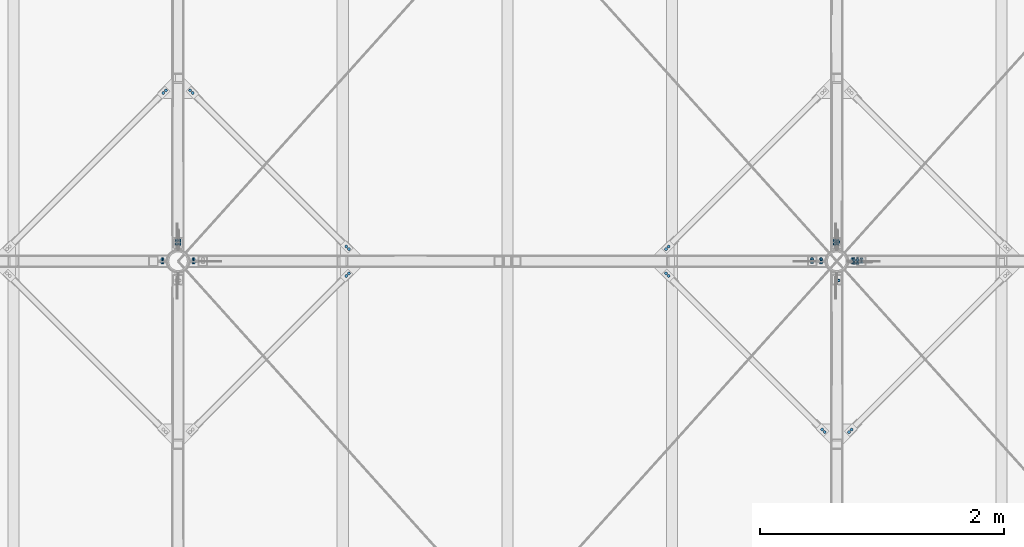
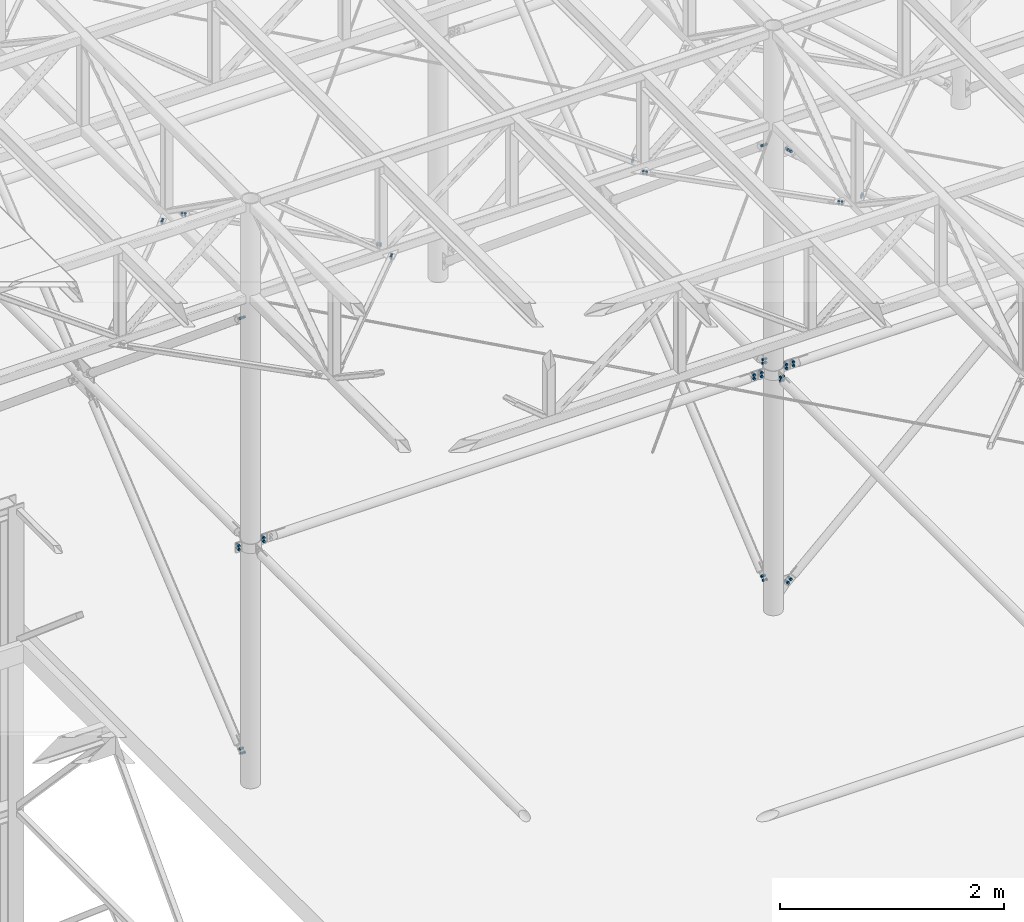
# One storey, part 116 of 132: 24 mechanical fasteners, 20 elements without a shape of their own.
"""IFC2X3 building model written with IfcOpenShell, lengths in millimetres."""

from ifc_helpers import new_model, si_unit, frame, origin_with_axes, origin_2d_with_axis, place, context, subcontext, project, spatial, polyline, circle, outline, extrude, source, transform, mapped, material, type_object, element, aggregate, save


model = new_model("IFC2X3")

# Units and contexts
model_context = context("Model", 3, precision=1e-05, world=origin_with_axes())
body_context = subcontext(model_context, "Body", "Model", "MODEL_VIEW")
ifc_project = project(units=[si_unit("LENGTHUNIT", "METRE", prefix="MILLI"), si_unit("AREAUNIT", "SQUARE_METRE"), si_unit("VOLUMEUNIT", "CUBIC_METRE"), si_unit("MASSUNIT", "GRAM", prefix="KILO"), si_unit("TIMEUNIT", "SECOND"), si_unit("PLANEANGLEUNIT", "RADIAN"), si_unit("SOLIDANGLEUNIT", "STERADIAN"), si_unit("THERMODYNAMICTEMPERATUREUNIT", "DEGREE_CELSIUS"), si_unit("LUMINOUSINTENSITYUNIT", "LUMEN")], contexts=[model_context])

# Site, building, storey
site_placement = place(None, origin_with_axes())
site = spatial("IfcSite", under=ifc_project, at=site_placement, Name="Budowa", CompositionType="ELEMENT")
building_placement = place(site_placement, origin_with_axes())
building = spatial("IfcBuilding", under=site, at=building_placement, Name="Undefined", CompositionType="ELEMENT")
storey_placement = place(building_placement, origin_with_axes())
storey = spatial("IfcBuildingStorey", under=building, at=storey_placement, Name="Undefined", CompositionType="ELEMENT", Elevation=0.0)

# Assembly, mechanical fastener
assembly_1_placement = place(storey_placement, origin_with_axes())
assembly_1 = element("IfcElementAssembly", 1, at=assembly_1_placement, inside=storey, Name="Steel Assembly", AssemblyPlace="NOTDEFINED", PredefinedType="RIGID_FRAME")
ifc_material = material(Name="Undefined")
discrete_accessory_type = type_object("IfcDiscreteAccessoryType", Name="Bolt assembly")
shared_shape_1 = source(origin_with_axes(), body_context, "Body", "SweptSolid", [
    extrude(circle(Radius=9.5, at=origin_2d_with_axis()), frame((0.0, -2.10099750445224, 0.0), z_axis=(0.0, 1.0, 0.0), x_axis=(1.0, 0.0, 0.0)), (0.0, 0.0, 1.0), 8.1),
    extrude(circle(Radius=9.5, at=origin_2d_with_axis()), frame((0.0, -9.9, 0.0), z_axis=(0.0, 1.0, 0.0), x_axis=(1.0, 0.0, 0.0)), (0.0, 0.0, 1.0), 8.0),
    extrude(outline(polyline([(13.85640646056, 0.0), (6.92820323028, 12.0000000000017), (-6.92820323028, 12.0000000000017), (-13.85640646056, 0.0), (-6.92820323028, -12.0000000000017), (6.92820323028, -12.0000000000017), (13.85640646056, 0.0)])), frame((0.0, -23.0, 0.0), z_axis=(0.0, 1.0, 0.0), x_axis=(1.0, 0.0, 0.0)), (0.0, 0.0, 1.0), 10.0),
    extrude(circle(Radius=8.0, at=origin_2d_with_axis()), frame((0.0, -13.0, 0.0), z_axis=(0.0, 1.0, 0.0), x_axis=(1.0, 0.0, 0.0)), (0.0, 0.0, 1.0), 45.0),
    extrude(circle(Radius=15.0, at=origin_2d_with_axis()), frame((0.0, -13.0, 0.0), z_axis=(0.0, 1.0, 0.0), x_axis=(1.0, 0.0, 0.0)), (0.0, 0.0, 1.0), 3.0),
    extrude(circle(Radius=15.0, at=origin_2d_with_axis()), frame((0.0, 5.99900249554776, 0.0), z_axis=(0.0, 1.0, 0.0), x_axis=(1.0, 0.0, 0.0)), (0.0, 0.0, 1.0), 3.0),
    extrude(outline(polyline([(13.85640646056, 0.0), (6.92820323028, 12.0000000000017), (-6.92820323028, 12.0000000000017), (-13.85640646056, 0.0), (-6.92820323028, -12.0000000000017), (6.92820323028, -12.0000000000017), (13.85640646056, 0.0)])), frame((0.0, 8.99900249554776, 0.0), z_axis=(0.0, 1.0, 0.0), x_axis=(1.0, 0.0, 0.0)), (0.0, 0.0, 1.0), 13.0),
])
mechanical_fastener_1_placement = place(assembly_1_placement, frame((9565.67385240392, 11997.9999976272, 7751.79053481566), z_axis=(-0.678551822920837, 0.0, 0.734552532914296), x_axis=(0.734552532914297, 0.0, 0.678551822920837)))
mechanical_fastener_1 = element("IfcMechanicalFastener", 2, at=mechanical_fastener_1_placement, type_object=discrete_accessory_type, material=ifc_material, Name="Bolt assembly", NominalDiameter=16.0, NominalLength=45.0, context=body_context, shape_type="MappedRepresentation", body=[
    mapped(shared_shape_1, transform((0.0, 0.0, 0.0))),
    mapped(shared_shape_1, transform((40.0000000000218, 0.0, -1.81898940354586e-12))),
])
aggregate(assembly_1, [mechanical_fastener_1])

assembly_2_placement = place(storey_placement, origin_with_axes())
assembly_2 = element("IfcElementAssembly", 3, at=assembly_2_placement, inside=storey, Name="Steel Assembly", AssemblyPlace="NOTDEFINED", PredefinedType="RIGID_FRAME")
mechanical_fastener_2_placement = place(assembly_2_placement, frame((9565.67385217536, 11997.9999975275, 12480.2102217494), z_axis=(0.678551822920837, 0.0, 0.734552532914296), x_axis=(0.734552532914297, 0.0, -0.678551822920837)))
mechanical_fastener_2 = element("IfcMechanicalFastener", 4, at=mechanical_fastener_2_placement, type_object=discrete_accessory_type, material=ifc_material, Name="Bolt assembly", NominalDiameter=16.0, NominalLength=45.0, context=body_context, shape_type="MappedRepresentation", body=[
    mapped(shared_shape_1, transform((0.0, 0.0, 0.0))),
    mapped(shared_shape_1, transform((40.0000000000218, 0.0, -1.81898940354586e-12))),
])
aggregate(assembly_2, [mechanical_fastener_2])

assembly_3_placement = place(storey_placement, origin_with_axes())
assembly_3 = element("IfcElementAssembly", 5, at=assembly_3_placement, inside=storey, Name="Steel Assembly", AssemblyPlace="NOTDEFINED", PredefinedType="RIGID_FRAME")
shared_shape_2 = source(origin_with_axes(), body_context, "Body", "SweptSolid", [
    extrude(circle(Radius=9.5, at=origin_2d_with_axis()), frame((0.0, -2.1, 0.0), z_axis=(0.0, 1.0, 0.0), x_axis=(1.0, 0.0, 0.0)), (0.0, 0.0, 1.0), 8.1),
    extrude(circle(Radius=9.5, at=origin_2d_with_axis()), frame((0.0, -11.9, 0.0), z_axis=(0.0, 1.0, 0.0), x_axis=(1.0, 0.0, 0.0)), (0.0, 0.0, 1.0), 8.0),
    extrude(outline(polyline([(13.85640646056, 0.0), (6.92820323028, 12.0000000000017), (-6.92820323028, 12.0000000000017), (-13.85640646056, 0.0), (-6.92820323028, -12.0000000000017), (6.92820323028, -12.0000000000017), (13.85640646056, 0.0)])), frame((0.0, -25.0, 0.0), z_axis=(0.0, 1.0, 0.0), x_axis=(1.0, 0.0, 0.0)), (0.0, 0.0, 1.0), 10.0),
    extrude(circle(Radius=8.0, at=origin_2d_with_axis()), frame((0.0, -15.0, 0.0), z_axis=(0.0, 1.0, 0.0), x_axis=(1.0, 0.0, 0.0)), (0.0, 0.0, 1.0), 45.0),
    extrude(circle(Radius=15.0, at=origin_2d_with_axis()), frame((0.0, -15.0, 0.0), z_axis=(0.0, 1.0, 0.0), x_axis=(1.0, 0.0, 0.0)), (0.0, 0.0, 1.0), 3.0),
    extrude(circle(Radius=15.0, at=origin_2d_with_axis()), frame((0.0, 6.0, 0.0), z_axis=(0.0, 1.0, 0.0), x_axis=(1.0, 0.0, 0.0)), (0.0, 0.0, 1.0), 3.0),
    extrude(outline(polyline([(13.85640646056, 0.0), (6.92820323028, 12.0000000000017), (-6.92820323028, 12.0000000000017), (-13.85640646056, 0.0), (-6.92820323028, -12.0000000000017), (6.92820323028, -12.0000000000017), (13.85640646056, 0.0)])), frame((0.0, 9.0, 0.0), z_axis=(0.0, 1.0, 0.0), x_axis=(1.0, 0.0, 0.0)), (0.0, 0.0, 1.0), 13.0),
])
mechanical_fastener_3_placement = place(assembly_3_placement, frame((9565.67385240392, 11997.9999976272, 7751.79053481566), z_axis=(-0.678551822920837, 0.0, 0.734552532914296), x_axis=(0.734552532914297, 0.0, 0.678551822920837)))
mechanical_fastener_3 = element("IfcMechanicalFastener", 6, at=mechanical_fastener_3_placement, type_object=discrete_accessory_type, material=ifc_material, Name="Bolt assembly", NominalDiameter=16.0, NominalLength=45.0, context=body_context, shape_type="MappedRepresentation", body=[
    mapped(shared_shape_2, transform((0.0, 0.0, 0.0))),
    mapped(shared_shape_2, transform((40.0000000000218, 0.0, -1.81898940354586e-12))),
])
aggregate(assembly_3, [mechanical_fastener_3])

assembly_4_placement = place(storey_placement, origin_with_axes())
assembly_4 = element("IfcElementAssembly", 7, at=assembly_4_placement, inside=storey, Name="Steel Assembly", AssemblyPlace="NOTDEFINED", PredefinedType="RIGID_FRAME")
mechanical_fastener_4_placement = place(assembly_4_placement, frame((9565.67385217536, 11997.9999975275, 12480.2102217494), z_axis=(0.678551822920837, 0.0, 0.734552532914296), x_axis=(0.734552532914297, 0.0, -0.678551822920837)))
mechanical_fastener_4 = element("IfcMechanicalFastener", 8, at=mechanical_fastener_4_placement, type_object=discrete_accessory_type, material=ifc_material, Name="Bolt assembly", NominalDiameter=16.0, NominalLength=45.0, context=body_context, shape_type="MappedRepresentation", body=[
    mapped(shared_shape_2, transform((0.0, 0.0, 0.0))),
    mapped(shared_shape_2, transform((40.0000000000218, 0.0, -1.81898940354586e-12))),
])
aggregate(assembly_4, [mechanical_fastener_4])

assembly_5_placement = place(storey_placement, origin_with_axes())
assembly_5 = element("IfcElementAssembly", 9, at=assembly_5_placement, inside=storey, Name="Steel Assembly", AssemblyPlace="NOTDEFINED", PredefinedType="RIGID_FRAME")
shared_shape_3 = source(origin_with_axes(), body_context, "Body", "SweptSolid", [
    extrude(circle(Radius=9.0, at=origin_2d_with_axis()), frame((0.0, 0.0999999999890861, 0.0), z_axis=(0.0, 1.0, 0.0), x_axis=(1.0, 0.0, 0.0)), (0.0, 0.0, 1.0), 8.0),
    extrude(circle(Radius=9.0, at=origin_2d_with_axis()), frame((0.0, 11.9000000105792, 0.0), z_axis=(0.0, 1.0, 0.0), x_axis=(1.0, 0.0, 0.0)), (0.0, 0.0, 1.0), 8.1),
    extrude(outline(polyline([(13.85640646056, 0.0), (6.92820323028, 12.0000000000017), (-6.92820323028, 12.0000000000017), (-13.85640646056, 0.0), (-6.92820323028, -12.0000000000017), (6.92820323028, -12.0000000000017), (13.85640646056, 0.0)])), frame((0.0, -13.0, 0.0), z_axis=(0.0, 1.0, 0.0), x_axis=(1.0, 0.0, 0.0)), (0.0, 0.0, 1.0), 10.0),
    extrude(circle(Radius=8.0, at=origin_2d_with_axis()), frame((0.0, -2.99999999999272, 0.0), z_axis=(0.0, 1.0, 0.0), x_axis=(1.0, 0.0, 0.0)), (0.0, 0.0, 1.0), 45.0),
    extrude(circle(Radius=15.0, at=origin_2d_with_axis()), frame((0.0, -2.99999999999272, 0.0), z_axis=(0.0, 1.0, 0.0), x_axis=(1.0, 0.0, 0.0)), (0.0, 0.0, 1.0), 3.0),
    extrude(circle(Radius=15.0, at=origin_2d_with_axis()), frame((0.0, 20.0000000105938, 0.0), z_axis=(0.0, 1.0, 0.0), x_axis=(1.0, 0.0, 0.0)), (0.0, 0.0, 1.0), 3.0),
    extrude(outline(polyline([(13.85640646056, 0.0), (6.92820323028, 12.0000000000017), (-6.92820323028, 12.0000000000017), (-13.85640646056, 0.0), (-6.92820323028, -12.0000000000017), (6.92820323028, -12.0000000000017), (13.85640646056, 0.0)])), frame((0.0, 23.0000000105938, 0.0), z_axis=(0.0, 1.0, 0.0), x_axis=(1.0, 0.0, 0.0)), (0.0, 0.0, 1.0), 13.0),
])
mechanical_fastener_5_placement = place(assembly_5_placement, frame((3896.86328702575, 11990.0000000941, 10096.0003779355), z_axis=(-1.0, 0.0, 0.0), x_axis=(0.0, 0.0, 1.0)))
mechanical_fastener_5 = element("IfcMechanicalFastener", 10, at=mechanical_fastener_5_placement, type_object=discrete_accessory_type, material=ifc_material, Name="Bolt assembly", NominalDiameter=16.0, NominalLength=45.0, context=body_context, shape_type="MappedRepresentation", body=[
    mapped(shared_shape_3, transform((0.0, 0.0, 0.0))),
    mapped(shared_shape_3, transform((40.0000000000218, 0.0, -1.81898940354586e-12))),
])
aggregate(assembly_5, [mechanical_fastener_5])

assembly_6_placement = place(storey_placement, origin_with_axes())
assembly_6 = element("IfcElementAssembly", 11, at=assembly_6_placement, inside=storey, Name="Steel Assembly", AssemblyPlace="NOTDEFINED", PredefinedType="RIGID_FRAME")
mechanical_fastener_6_placement = place(assembly_6_placement, frame((9296.86328710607, 11990.000000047, 10096.0003779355), z_axis=(-1.0, 0.0, 0.0), x_axis=(0.0, 0.0, 1.0)))
mechanical_fastener_6 = element("IfcMechanicalFastener", 12, at=mechanical_fastener_6_placement, type_object=discrete_accessory_type, material=ifc_material, Name="Bolt assembly", NominalDiameter=16.0, NominalLength=45.0, context=body_context, shape_type="MappedRepresentation", body=[
    mapped(shared_shape_3, transform((0.0, 0.0, 0.0))),
    mapped(shared_shape_3, transform((40.0000000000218, 0.0, -1.81898940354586e-12))),
])

assembly_7_placement = place(storey_placement, origin_with_axes())
assembly_7 = element("IfcElementAssembly", 13, at=assembly_7_placement, inside=storey, Name="Steel Assembly", AssemblyPlace="NOTDEFINED", PredefinedType="RIGID_FRAME")
shared_shape_4 = source(origin_with_axes(), body_context, "Body", "SweptSolid", [
    extrude(circle(Radius=9.0, at=origin_2d_with_axis()), frame((0.0, -4.09999999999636, 0.0), z_axis=(0.0, 1.0, 0.0), x_axis=(1.0, 0.0, 0.0)), (0.0, 0.0, 1.0), 8.1),
    extrude(circle(Radius=9.0, at=origin_2d_with_axis()), frame((0.0, -11.9, 0.0), z_axis=(0.0, 1.0, 0.0), x_axis=(1.0, 0.0, 0.0)), (0.0, 0.0, 1.0), 8.0),
    extrude(outline(polyline([(13.85640646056, 0.0), (6.92820323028, 12.0000000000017), (-6.92820323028, 12.0000000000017), (-13.85640646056, 0.0), (-6.92820323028, -12.0000000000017), (6.92820323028, -12.0000000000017), (13.85640646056, 0.0)])), frame((0.0, -25.0, 0.0), z_axis=(0.0, 1.0, 0.0), x_axis=(1.0, 0.0, 0.0)), (0.0, 0.0, 1.0), 10.0),
    extrude(circle(Radius=8.0, at=origin_2d_with_axis()), frame((0.0, -15.0, 0.0), z_axis=(0.0, 1.0, 0.0), x_axis=(1.0, 0.0, 0.0)), (0.0, 0.0, 1.0), 40.0),
    extrude(circle(Radius=15.0, at=origin_2d_with_axis()), frame((0.0, -15.0, 0.0), z_axis=(0.0, 1.0, 0.0), x_axis=(1.0, 0.0, 0.0)), (0.0, 0.0, 1.0), 3.0),
    extrude(circle(Radius=15.0, at=origin_2d_with_axis()), frame((0.0, 4.0, 0.0), z_axis=(0.0, 1.0, 0.0), x_axis=(1.0, 0.0, 0.0)), (0.0, 0.0, 1.0), 3.0),
    extrude(outline(polyline([(13.85640646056, 0.0), (6.92820323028, 12.0000000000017), (-6.92820323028, 12.0000000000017), (-13.85640646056, 0.0), (-6.92820323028, -12.0000000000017), (6.92820323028, -12.0000000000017), (13.85640646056, 0.0)])), frame((0.0, 7.0, 0.0), z_axis=(0.0, 1.0, 0.0), x_axis=(1.0, 0.0, 0.0)), (0.0, 0.0, 1.0), 13.0),
])
mechanical_fastener_7_placement = place(assembly_7_placement, frame((9425.00000277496, 12157.907905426, 10116.0003779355), z_axis=(0.0, 0.0, -1.0), x_axis=(0.0, 1.0, 0.0)))
mechanical_fastener_7 = element("IfcMechanicalFastener", 14, at=mechanical_fastener_7_placement, type_object=discrete_accessory_type, material=ifc_material, Name="Bolt assembly", NominalDiameter=16.0, NominalLength=40.0, context=body_context, shape_type="MappedRepresentation", body=[
    mapped(shared_shape_4, transform((0.0, 0.0, -20.0))),
    mapped(shared_shape_4, transform((0.0, 0.0, 20.0))),
])
aggregate(assembly_7, [mechanical_fastener_7])

assembly_8_placement = place(storey_placement, origin_with_axes())
assembly_8 = element("IfcElementAssembly", 15, at=assembly_8_placement, inside=storey, Name="Steel Assembly", AssemblyPlace="NOTDEFINED", PredefinedType="RIGID_FRAME")
mechanical_fastener_8_placement = place(assembly_8_placement, frame((9425.00000249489, 11842.0920947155, 10116.0003779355), z_axis=(0.0, 0.0, 1.0), x_axis=(0.0, -1.0, 0.0)))
mechanical_fastener_8 = element("IfcMechanicalFastener", 16, at=mechanical_fastener_8_placement, type_object=discrete_accessory_type, material=ifc_material, Name="Bolt assembly", NominalDiameter=16.0, NominalLength=40.0, context=body_context, shape_type="MappedRepresentation", body=[
    mapped(shared_shape_4, transform((0.0, 0.0, -20.0))),
    mapped(shared_shape_4, transform((0.0, 0.0, 20.0))),
])
aggregate(assembly_8, [mechanical_fastener_8])

assembly_9_placement = place(storey_placement, origin_with_axes())
assembly_9 = element("IfcElementAssembly", 17, at=assembly_9_placement, inside=storey, Name="Steel Assembly", AssemblyPlace="NOTDEFINED", PredefinedType="RIGID_FRAME")
mechanical_fastener_9_placement = place(assembly_9_placement, frame((4024.99999991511, 12140.1779391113, 7739.23081470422), z_axis=(0.0, -0.639165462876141, 0.769069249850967), x_axis=(0.0, 0.769069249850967, 0.639165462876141)))
mechanical_fastener_9 = element("IfcMechanicalFastener", 18, at=mechanical_fastener_9_placement, type_object=discrete_accessory_type, material=ifc_material, Name="Bolt assembly", NominalDiameter=16.0, NominalLength=40.0, context=body_context, shape_type="MappedRepresentation", body=[
    mapped(shared_shape_4, transform((0.0, 0.0, 0.0))),
    mapped(shared_shape_4, transform((40.0000000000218, 0.0, -1.81898940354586e-12))),
])
aggregate(assembly_9, [mechanical_fastener_9])

assembly_10_placement = place(storey_placement, origin_with_axes())
assembly_10 = element("IfcElementAssembly", 19, at=assembly_10_placement, inside=storey, Name="Steel Assembly", AssemblyPlace="NOTDEFINED", PredefinedType="RIGID_FRAME")
mechanical_fastener_10_placement = place(assembly_10_placement, frame((4024.99999991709, 12140.1779415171, 12492.7698566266), z_axis=(0.0, 0.639165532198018, 0.76906919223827), x_axis=(0.0, 0.769069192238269, -0.639165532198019)))
mechanical_fastener_10 = element("IfcMechanicalFastener", 20, at=mechanical_fastener_10_placement, type_object=discrete_accessory_type, material=ifc_material, Name="Bolt assembly", NominalDiameter=16.0, NominalLength=40.0, context=body_context, shape_type="MappedRepresentation", body=[
    mapped(shared_shape_4, transform((0.0, 0.0, 0.0))),
    mapped(shared_shape_4, transform((40.0000000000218, 0.0, -1.81898940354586e-12))),
])
aggregate(assembly_10, [mechanical_fastener_10])

# Mechanical fastener
shared_shape_5 = source(origin_with_axes(), body_context, "Body", "SweptSolid", [
    extrude(circle(Radius=9.0, at=origin_2d_with_axis()), frame((0.0, 0.0999999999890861, 0.0), z_axis=(0.0, 1.0, 0.0), x_axis=(1.0, 0.0, 0.0)), (0.0, 0.0, 1.0), 8.0),
    extrude(circle(Radius=9.0, at=origin_2d_with_axis()), frame((0.0, 7.9000007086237, 0.0), z_axis=(0.0, 1.0, 0.0), x_axis=(1.0, 0.0, 0.0)), (0.0, 0.0, 1.0), 8.1),
    extrude(outline(polyline([(13.85640646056, 0.0), (6.92820323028, 12.0000000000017), (-6.92820323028, 12.0000000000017), (-13.85640646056, 0.0), (-6.92820323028, -12.0000000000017), (6.92820323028, -12.0000000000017), (13.85640646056, 0.0)])), frame((0.0, -13.0, 0.0), z_axis=(0.0, 1.0, 0.0), x_axis=(1.0, 0.0, 0.0)), (0.0, 0.0, 1.0), 10.0),
    extrude(circle(Radius=8.0, at=origin_2d_with_axis()), frame((0.0, -2.99999999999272, 0.0), z_axis=(0.0, 1.0, 0.0), x_axis=(1.0, 0.0, 0.0)), (0.0, 0.0, 1.0), 40.0),
    extrude(circle(Radius=15.0, at=origin_2d_with_axis()), frame((0.0, -2.99999999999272, 0.0), z_axis=(0.0, 1.0, 0.0), x_axis=(1.0, 0.0, 0.0)), (0.0, 0.0, 1.0), 3.0),
    extrude(circle(Radius=15.0, at=origin_2d_with_axis()), frame((0.0, 16.0000007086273, 0.0), z_axis=(0.0, 1.0, 0.0), x_axis=(1.0, 0.0, 0.0)), (0.0, 0.0, 1.0), 3.0),
    extrude(outline(polyline([(13.85640646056, 0.0), (6.92820323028, 12.0000000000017), (-6.92820323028, 12.0000000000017), (-13.85640646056, 0.0), (-6.92820323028, -12.0000000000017), (6.92820323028, -12.0000000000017), (13.85640646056, 0.0)])), frame((0.0, 19.0000007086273, 0.0), z_axis=(0.0, 1.0, 0.0), x_axis=(1.0, 0.0, 0.0)), (0.0, 0.0, 1.0), 13.0),
])
mechanical_fastener_11_placement = place(assembly_6_placement, frame((9221.86330560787, 11993.9999994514, 10096.0003779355), z_axis=(-1.0, 0.0, 0.0), x_axis=(0.0, 0.0, 1.0)))
mechanical_fastener_11 = element("IfcMechanicalFastener", 21, at=mechanical_fastener_11_placement, type_object=discrete_accessory_type, material=ifc_material, Name="Bolt assembly", NominalDiameter=16.0, NominalLength=40.0, context=body_context, shape_type="MappedRepresentation", body=[
    mapped(shared_shape_5, transform((0.0, 0.0, 0.0))),
    mapped(shared_shape_5, transform((40.0000000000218, 0.0, -1.81898940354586e-12))),
])

mechanical_fastener_12_placement = place(assembly_6_placement, frame((9628.13669408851, 11993.9999994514, 10096.0003779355), z_axis=(-1.0, 0.0, 0.0), x_axis=(0.0, 0.0, 1.0)))
mechanical_fastener_12 = element("IfcMechanicalFastener", 22, at=mechanical_fastener_12_placement, type_object=discrete_accessory_type, material=ifc_material, Name="Bolt assembly", NominalDiameter=16.0, NominalLength=40.0, context=body_context, shape_type="MappedRepresentation", body=[
    mapped(shared_shape_5, transform((0.0, 0.0, 0.0))),
    mapped(shared_shape_5, transform((40.0000000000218, 0.0, -1.81898940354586e-12))),
])

aggregate(assembly_6, [mechanical_fastener_11, mechanical_fastener_12, mechanical_fastener_6])

# Assembly, mechanical fastener
assembly_11_placement = place(storey_placement, origin_with_axes())
assembly_11 = element("IfcElementAssembly", 23, at=assembly_11_placement, inside=storey, Name="Steel Assembly", AssemblyPlace="NOTDEFINED", PredefinedType="RIGID_FRAME")
shared_shape_6 = source(origin_with_axes(), body_context, "Body", "SweptSolid", [
    extrude(circle(Radius=9.0, at=origin_2d_with_axis()), frame((0.0, 11.9000000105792, 0.0), z_axis=(0.0, 1.0, 0.0), x_axis=(1.0, 0.0, 0.0)), (0.0, 0.0, 1.0), 8.1),
    extrude(circle(Radius=9.0, at=origin_2d_with_axis()), frame((0.0, 0.0999999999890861, 0.0), z_axis=(0.0, 1.0, 0.0), x_axis=(1.0, 0.0, 0.0)), (0.0, 0.0, 1.0), 8.0),
    extrude(outline(polyline([(13.85640646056, 0.0), (6.92820323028, 12.0000000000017), (-6.92820323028, 12.0000000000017), (-13.85640646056, 0.0), (-6.92820323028, -12.0000000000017), (6.92820323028, -12.0000000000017), (13.85640646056, 0.0)])), frame((0.0, -13.0, 0.0), z_axis=(0.0, 1.0, 0.0), x_axis=(1.0, 0.0, 0.0)), (0.0, 0.0, 1.0), 10.0),
    extrude(circle(Radius=8.0, at=origin_2d_with_axis()), frame((0.0, -2.99999999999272, 0.0), z_axis=(0.0, 1.0, 0.0), x_axis=(1.0, 0.0, 0.0)), (0.0, 0.0, 1.0), 45.0),
    extrude(circle(Radius=15.0, at=origin_2d_with_axis()), frame((0.0, -2.99999999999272, 0.0), z_axis=(0.0, 1.0, 0.0), x_axis=(1.0, 0.0, 0.0)), (0.0, 0.0, 1.0), 3.0),
    extrude(circle(Radius=15.0, at=origin_2d_with_axis()), frame((0.0, 20.0000000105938, 0.0), z_axis=(0.0, 1.0, 0.0), x_axis=(1.0, 0.0, 0.0)), (0.0, 0.0, 1.0), 3.0),
    extrude(outline(polyline([(13.85640646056, 0.0), (6.92820323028, 12.0000000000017), (-6.92820323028, 12.0000000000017), (-13.85640646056, 0.0), (-6.92820323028, -12.0000000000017), (6.92820323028, -12.0000000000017), (13.85640646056, 0.0)])), frame((0.0, 23.0000000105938, 0.0), z_axis=(0.0, 1.0, 0.0), x_axis=(1.0, 0.0, 0.0)), (0.0, 0.0, 1.0), 13.0),
])
mechanical_fastener_13_placement = place(assembly_11_placement, frame((4153.13669400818, 11989.9999999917, 10096.0003779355), z_axis=(-1.0, 0.0, 0.0), x_axis=(0.0, 0.0, 1.0)))
mechanical_fastener_13 = element("IfcMechanicalFastener", 24, at=mechanical_fastener_13_placement, type_object=discrete_accessory_type, material=ifc_material, Name="Bolt assembly", NominalDiameter=16.0, NominalLength=45.0, context=body_context, shape_type="MappedRepresentation", body=[
    mapped(shared_shape_6, transform((0.0, 0.0, 0.0))),
    mapped(shared_shape_6, transform((40.0000000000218, 0.0, -1.81898940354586e-12))),
])
aggregate(assembly_11, [mechanical_fastener_13])

assembly_12_placement = place(storey_placement, origin_with_axes())
assembly_12 = element("IfcElementAssembly", 25, at=assembly_12_placement, inside=storey, Name="Steel Assembly", AssemblyPlace="NOTDEFINED", PredefinedType="RIGID_FRAME")
mechanical_fastener_14_placement = place(assembly_12_placement, frame((9553.1366940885, 11989.9999999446, 10096.0003779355), z_axis=(-1.0, 0.0, 0.0), x_axis=(0.0, 0.0, 1.0)))
mechanical_fastener_14 = element("IfcMechanicalFastener", 26, at=mechanical_fastener_14_placement, type_object=discrete_accessory_type, material=ifc_material, Name="Bolt assembly", NominalDiameter=16.0, NominalLength=45.0, context=body_context, shape_type="MappedRepresentation", body=[
    mapped(shared_shape_6, transform((0.0, 0.0, 0.0))),
    mapped(shared_shape_6, transform((40.0000000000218, 0.0, -1.81898940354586e-12))),
])
aggregate(assembly_12, [mechanical_fastener_14])

assembly_13_placement = place(storey_placement, origin_with_axes())
assembly_13 = element("IfcElementAssembly", 27, at=assembly_13_placement, inside=storey, Name="Steel Assembly", AssemblyPlace="NOTDEFINED", PredefinedType="RIGID_FRAME")
shared_shape_7 = source(origin_with_axes(), body_context, "Body", "SweptSolid", [
    extrude(circle(Radius=9.0, at=origin_2d_with_axis()), frame((0.0, -3.9000024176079, 0.0), z_axis=(0.0, 1.0, 0.0), x_axis=(1.0, 0.0, 0.0)), (0.0, 0.0, 1.0), 8.0),
    extrude(circle(Radius=9.0, at=origin_2d_with_axis()), frame((0.0, 3.90000010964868, 0.0), z_axis=(0.0, 1.0, 0.0), x_axis=(1.0, 0.0, 0.0)), (0.0, 0.0, 1.0), 8.1),
    extrude(outline(polyline([(13.85640646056, 0.0), (6.92820323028, 12.0000000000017), (-6.92820323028, 12.0000000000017), (-13.85640646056, 0.0), (-6.92820323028, -12.0000000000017), (6.92820323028, -12.0000000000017), (13.85640646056, 0.0)])), frame((0.0, -17.0000024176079, 0.0), z_axis=(0.0, 1.0, 0.0), x_axis=(1.0, 0.0, 0.0)), (0.0, 0.0, 1.0), 10.0),
    extrude(circle(Radius=8.0, at=origin_2d_with_axis()), frame((0.0, -7.0000024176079, 0.0), z_axis=(0.0, 1.0, 0.0), x_axis=(1.0, 0.0, 0.0)), (0.0, 0.0, 1.0), 40.0),
    extrude(circle(Radius=15.0, at=origin_2d_with_axis()), frame((0.0, -7.0000024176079, 0.0), z_axis=(0.0, 1.0, 0.0), x_axis=(1.0, 0.0, 0.0)), (0.0, 0.0, 1.0), 3.0),
    extrude(circle(Radius=15.0, at=origin_2d_with_axis()), frame((0.0, 12.0000001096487, 0.0), z_axis=(0.0, 1.0, 0.0), x_axis=(1.0, 0.0, 0.0)), (0.0, 0.0, 1.0), 3.0),
    extrude(outline(polyline([(13.85640646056, 0.0), (6.92820323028, 12.0000000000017), (-6.92820323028, 12.0000000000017), (-13.85640646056, 0.0), (-6.92820323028, -12.0000000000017), (6.92820323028, -12.0000000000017), (13.85640646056, 0.0)])), frame((0.0, 15.0000001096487, 0.0), z_axis=(0.0, 1.0, 0.0), x_axis=(1.0, 0.0, 0.0)), (0.0, 0.0, 1.0), 13.0),
])
mechanical_fastener_15_placement = place(assembly_13_placement, frame((9424.99999993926, 12140.1779391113, 7739.23081470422), z_axis=(0.0, -0.639165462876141, 0.769069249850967), x_axis=(0.0, 0.769069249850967, 0.639165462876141)))
mechanical_fastener_15 = element("IfcMechanicalFastener", 28, at=mechanical_fastener_15_placement, type_object=discrete_accessory_type, material=ifc_material, Name="Bolt assembly", NominalDiameter=16.0, NominalLength=40.0, context=body_context, shape_type="MappedRepresentation", body=[
    mapped(shared_shape_7, transform((0.0, 0.0, 0.0))),
    mapped(shared_shape_7, transform((40.0000000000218, 0.0, -1.81898940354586e-12))),
])
aggregate(assembly_13, [mechanical_fastener_15])

assembly_14_placement = place(storey_placement, origin_with_axes())
assembly_14 = element("IfcElementAssembly", 29, at=assembly_14_placement, inside=storey, Name="Steel Assembly", AssemblyPlace="NOTDEFINED", PredefinedType="RIGID_FRAME")
mechanical_fastener_16_placement = place(assembly_14_placement, frame((9424.99999994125, 12140.1779415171, 12492.7698566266), z_axis=(0.0, 0.639165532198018, 0.76906919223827), x_axis=(0.0, 0.769069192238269, -0.639165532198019)))
mechanical_fastener_16 = element("IfcMechanicalFastener", 30, at=mechanical_fastener_16_placement, type_object=discrete_accessory_type, material=ifc_material, Name="Bolt assembly", NominalDiameter=16.0, NominalLength=40.0, context=body_context, shape_type="MappedRepresentation", body=[
    mapped(shared_shape_7, transform((0.0, 0.0, 0.0))),
    mapped(shared_shape_7, transform((40.0000000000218, 0.0, -1.81898940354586e-12))),
])
aggregate(assembly_14, [mechanical_fastener_16])

# Assembly, mechanical fasteners
assembly_15_placement = place(storey_placement, origin_with_axes())
assembly_15 = element("IfcElementAssembly", 31, at=assembly_15_placement, inside=storey, Name="Steel Assembly", AssemblyPlace="NOTDEFINED", PredefinedType="RIGID_FRAME")
shared_shape_8 = source(origin_with_axes(), body_context, "Body", "SweptSolid", [
    extrude(circle(Radius=6.5, at=origin_2d_with_axis()), frame((0.0, -3.1, 0.0), z_axis=(0.0, 1.0, 0.0), x_axis=(1.0, 0.0, 0.0)), (0.0, 0.0, 1.0), 6.1),
    extrude(circle(Radius=6.5, at=origin_2d_with_axis()), frame((0.0, -8.9, 0.0), z_axis=(0.0, 1.0, 0.0), x_axis=(1.0, 0.0, 0.0)), (0.0, 0.0, 1.0), 6.0),
    extrude(outline(polyline([(10.39230484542, 0.0), (5.19615242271, 9.00000000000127), (-5.19615242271, 9.00000000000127), (-10.39230484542, 0.0), (-5.19615242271, -9.00000000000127), (5.19615242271, -9.00000000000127), (10.39230484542, 0.0)])), frame((0.0, -19.5, 0.0), z_axis=(0.0, 1.0, 0.0), x_axis=(1.0, 0.0, 0.0)), (0.0, 0.0, 1.0), 7.5),
    extrude(circle(Radius=6.0, at=origin_2d_with_axis()), frame((0.0, -12.0, 0.0), z_axis=(0.0, 1.0, 0.0), x_axis=(1.0, 0.0, 0.0)), (0.0, 0.0, 1.0), 35.0),
    extrude(circle(Radius=12.0, at=origin_2d_with_axis()), frame((0.0, -12.0, 0.0), z_axis=(0.0, 1.0, 0.0), x_axis=(1.0, 0.0, 0.0)), (0.0, 0.0, 1.0), 3.0),
    extrude(circle(Radius=12.0, at=origin_2d_with_axis()), frame((0.0, 3.0, 0.0), z_axis=(0.0, 1.0, 0.0), x_axis=(1.0, 0.0, 0.0)), (0.0, 0.0, 1.0), 3.0),
    extrude(outline(polyline([(10.96965511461, 0.0), (5.484827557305, 9.50000000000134), (-5.484827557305, 9.50000000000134), (-10.96965511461, 0.0), (-5.484827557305, -9.50000000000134), (5.484827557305, -9.50000000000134), (10.96965511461, 0.0)])), frame((0.0, 6.0, 0.0), z_axis=(0.0, 1.0, 0.0), x_axis=(1.0, 0.0, 0.0)), (0.0, 0.0, 1.0), 10.0),
])
mechanical_fastener_17_placement = place(assembly_15_placement, frame((5425.44465901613, 12099.3553410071, 12824.0), z_axis=(-0.70710678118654, -0.707106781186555, 0.0), x_axis=(-0.707106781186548, 0.707106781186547, 0.0)))
mechanical_fastener_17 = element("IfcMechanicalFastener", 32, at=mechanical_fastener_17_placement, type_object=discrete_accessory_type, material=ifc_material, Name="Bolt assembly", NominalDiameter=12.0, NominalLength=35.0, context=body_context, shape_type="MappedRepresentation", body=[
    mapped(shared_shape_8, transform((0.0, 0.0, 0.0))),
    mapped(shared_shape_8, transform((29.9999999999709, 0.0, -1.16415321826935e-10))),
])
mechanical_fastener_18_placement = place(assembly_15_placement, frame((4124.35534086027, 13400.4446591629, 12824.0), z_axis=(0.707106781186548, 0.707106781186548, 0.0), x_axis=(0.707106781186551, -0.707106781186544, 0.0)))
mechanical_fastener_18 = element("IfcMechanicalFastener", 33, at=mechanical_fastener_18_placement, type_object=discrete_accessory_type, material=ifc_material, Name="Bolt assembly", NominalDiameter=12.0, NominalLength=35.0, context=body_context, shape_type="MappedRepresentation", body=[
    mapped(shared_shape_8, transform((0.0, 0.0, 0.0))),
    mapped(shared_shape_8, transform((29.9999999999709, 0.0, -1.16415321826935e-10))),
])
aggregate(assembly_15, [mechanical_fastener_17, mechanical_fastener_18])

# Assembly, mechanical fastener
assembly_16_placement = place(storey_placement, origin_with_axes())
assembly_16 = element("IfcElementAssembly", 34, at=assembly_16_placement, inside=storey, Name="Steel Assembly", AssemblyPlace="NOTDEFINED", PredefinedType="RIGID_FRAME")
mechanical_fastener_19_placement = place(assembly_16_placement, frame((5425.64465898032, 11900.6446591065, 12824.0), z_axis=(0.707106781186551, -0.707106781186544, 0.0), x_axis=(-0.70710678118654, -0.707106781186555, 0.0)))
mechanical_fastener_19 = element("IfcMechanicalFastener", 35, at=mechanical_fastener_19_placement, type_object=discrete_accessory_type, material=ifc_material, Name="Bolt assembly", NominalDiameter=12.0, NominalLength=35.0, context=body_context, shape_type="MappedRepresentation", body=[
    mapped(shared_shape_8, transform((0.0, 0.0, 0.0))),
    mapped(shared_shape_8, transform((29.9999999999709, 0.0, -1.16415321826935e-10))),
])
aggregate(assembly_16, [mechanical_fastener_19])

assembly_17_placement = place(storey_placement, origin_with_axes())
assembly_17 = element("IfcElementAssembly", 36, at=assembly_17_placement, inside=storey, Name="Steel Assembly", AssemblyPlace="NOTDEFINED", PredefinedType="RIGID_FRAME")
mechanical_fastener_20_placement = place(assembly_17_placement, frame((3925.64465895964, 13400.4446591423, 12824.0), z_axis=(0.707106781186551, -0.707106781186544, 0.0), x_axis=(-0.70710678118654, -0.707106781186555, 0.0)))
mechanical_fastener_20 = element("IfcMechanicalFastener", 37, at=mechanical_fastener_20_placement, type_object=discrete_accessory_type, material=ifc_material, Name="Bolt assembly", NominalDiameter=12.0, NominalLength=35.0, context=body_context, shape_type="MappedRepresentation", body=[
    mapped(shared_shape_8, transform((0.0, 0.0, 0.0))),
    mapped(shared_shape_8, transform((29.9999999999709, 0.0, -1.16415321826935e-10))),
])
aggregate(assembly_17, [mechanical_fastener_20])

assembly_18_placement = place(storey_placement, origin_with_axes())
assembly_18 = element("IfcElementAssembly", 38, at=assembly_18_placement, inside=storey, Name="Steel Assembly", AssemblyPlace="NOTDEFINED", PredefinedType="RIGID_FRAME")
mechanical_fastener_21_placement = place(assembly_18_placement, frame((9524.35534090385, 10599.3553410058, 12824.0), z_axis=(-0.707106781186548, 0.707106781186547, 0.0), x_axis=(0.707106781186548, 0.707106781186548, 0.0)))
mechanical_fastener_21 = element("IfcMechanicalFastener", 39, at=mechanical_fastener_21_placement, type_object=discrete_accessory_type, material=ifc_material, Name="Bolt assembly", NominalDiameter=12.0, NominalLength=35.0, context=body_context, shape_type="MappedRepresentation", body=[
    mapped(shared_shape_8, transform((0.0, 0.0, 0.0))),
    mapped(shared_shape_8, transform((29.9999999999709, 0.0, -1.16415321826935e-10))),
])
aggregate(assembly_18, [mechanical_fastener_21])

assembly_19_placement = place(storey_placement, origin_with_axes())
assembly_19 = element("IfcElementAssembly", 40, at=assembly_19_placement, inside=storey, Name="Steel Assembly", AssemblyPlace="NOTDEFINED", PredefinedType="RIGID_FRAME")
mechanical_fastener_22_placement = place(assembly_19_placement, frame((8024.55534082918, 12099.3553409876, 12824.0), z_axis=(-0.707106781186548, 0.707106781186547, 0.0), x_axis=(0.707106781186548, 0.707106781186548, 0.0)))
mechanical_fastener_22 = element("IfcMechanicalFastener", 41, at=mechanical_fastener_22_placement, type_object=discrete_accessory_type, material=ifc_material, Name="Bolt assembly", NominalDiameter=12.0, NominalLength=35.0, context=body_context, shape_type="MappedRepresentation", body=[
    mapped(shared_shape_8, transform((0.0, 0.0, 0.0))),
    mapped(shared_shape_8, transform((29.9999999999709, 0.0, -1.16415321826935e-10))),
])
aggregate(assembly_19, [mechanical_fastener_22])

# Assembly, mechanical fasteners
assembly_20_placement = place(storey_placement, origin_with_axes())
assembly_20 = element("IfcElementAssembly", 42, at=assembly_20_placement, inside=storey, Name="Steel Assembly", AssemblyPlace="NOTDEFINED", PredefinedType="RIGID_FRAME")
mechanical_fastener_23_placement = place(assembly_20_placement, frame((8024.35534090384, 11900.644659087, 12824.0), z_axis=(0.707106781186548, 0.707106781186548, 0.0), x_axis=(0.707106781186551, -0.707106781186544, 0.0)))
mechanical_fastener_23 = element("IfcMechanicalFastener", 43, at=mechanical_fastener_23_placement, type_object=discrete_accessory_type, material=ifc_material, Name="Bolt assembly", NominalDiameter=12.0, NominalLength=35.0, context=body_context, shape_type="MappedRepresentation", body=[
    mapped(shared_shape_8, transform((0.0, 0.0, 0.0))),
    mapped(shared_shape_8, transform((29.9999999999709, 0.0, -1.16415321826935e-10))),
])
mechanical_fastener_24_placement = place(assembly_20_placement, frame((9325.64465900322, 10599.3553409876, 12824.0), z_axis=(-0.70710678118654, -0.707106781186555, 0.0), x_axis=(-0.707106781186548, 0.707106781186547, 0.0)))
mechanical_fastener_24 = element("IfcMechanicalFastener", 44, at=mechanical_fastener_24_placement, type_object=discrete_accessory_type, material=ifc_material, Name="Bolt assembly", NominalDiameter=12.0, NominalLength=35.0, context=body_context, shape_type="MappedRepresentation", body=[
    mapped(shared_shape_8, transform((0.0, 0.0, 0.0))),
    mapped(shared_shape_8, transform((29.9999999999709, 0.0, -1.16415321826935e-10))),
])
aggregate(assembly_20, [mechanical_fastener_23, mechanical_fastener_24])

save(model, "model.ifc")
